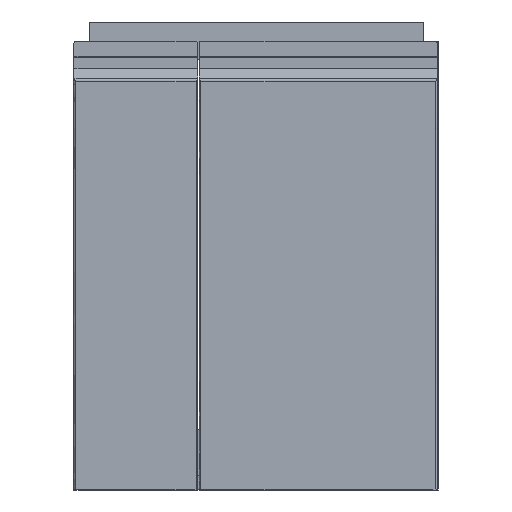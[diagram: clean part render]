
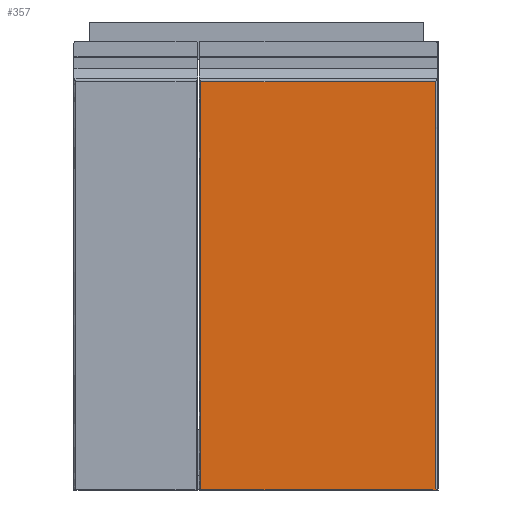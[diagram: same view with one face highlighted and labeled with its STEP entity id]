
A CAD part, front view. The second image highlights one B-rep face of the part: STEP entity #357.
In plain terms, the highlighted planar face has unit normal (0, -1, 0).
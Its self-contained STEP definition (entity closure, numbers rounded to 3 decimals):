
#357=ADVANCED_FACE('',(#465),#1789,.T.);
#465=FACE_OUTER_BOUND('',#573,.T.);
#573=EDGE_LOOP('',(#1010,#1011,#1012,#1013));
#1010=ORIENTED_EDGE('',*,*,#1303,.T.);
#1011=ORIENTED_EDGE('',*,*,#1302,.F.);
#1012=ORIENTED_EDGE('',*,*,#1263,.F.);
#1013=ORIENTED_EDGE('',*,*,#1256,.F.);
#1256=EDGE_CURVE('',#1669,#1670,#1490,.T.);
#1263=EDGE_CURVE('',#1670,#1678,#1497,.T.);
#1302=EDGE_CURVE('',#1678,#1702,#1525,.T.);
#1303=EDGE_CURVE('',#1669,#1702,#1526,.T.);
#1490=B_SPLINE_CURVE_WITH_KNOTS('',1,(#5668,#5669),.UNSPECIFIED.,.F.,.F.,
(2,2),(-304.,0.),.UNSPECIFIED.);
#1497=B_SPLINE_CURVE_WITH_KNOTS('',1,(#5682,#5683),.UNSPECIFIED.,.F.,.F.,
(2,2),(0.,528.515),.UNSPECIFIED.);
#1525=B_SPLINE_CURVE_WITH_KNOTS('',1,(#6121,#6122),.UNSPECIFIED.,.F.,.F.,
(2,2),(0.,304.),.UNSPECIFIED.);
#1526=B_SPLINE_CURVE_WITH_KNOTS('',1,(#6123,#6124),.UNSPECIFIED.,.F.,.F.,
(2,2),(0.,528.515),.UNSPECIFIED.);
#1669=VERTEX_POINT('',#5628);
#1670=VERTEX_POINT('',#5629);
#1678=VERTEX_POINT('',#5637);
#1702=VERTEX_POINT('',#5661);
#1789=PLANE('',#2161);
#2161=AXIS2_PLACEMENT_3D('',#5081,#2311,$);
#2311=DIRECTION('',(0.,-1.,0.));
#5081=CARTESIAN_POINT('',(3879.905,-274.5,331.751));
#5628=CARTESIAN_POINT('',(4214.425,-274.5,-249.735));
#5629=CARTESIAN_POINT('',(3910.425,-274.5,-249.735));
#5637=CARTESIAN_POINT('',(3910.425,-274.5,278.779));
#5661=CARTESIAN_POINT('',(4214.425,-274.5,278.779));
#5668=CARTESIAN_POINT('',(4214.425,-274.5,-249.735));
#5669=CARTESIAN_POINT('',(3910.425,-274.5,-249.735));
#5682=CARTESIAN_POINT('',(3910.425,-274.5,-249.735));
#5683=CARTESIAN_POINT('',(3910.425,-274.5,278.779));
#6121=CARTESIAN_POINT('',(3910.425,-274.5,278.779));
#6122=CARTESIAN_POINT('',(4214.425,-274.5,278.779));
#6123=CARTESIAN_POINT('',(4214.425,-274.5,-249.735));
#6124=CARTESIAN_POINT('',(4214.425,-274.5,278.779));
